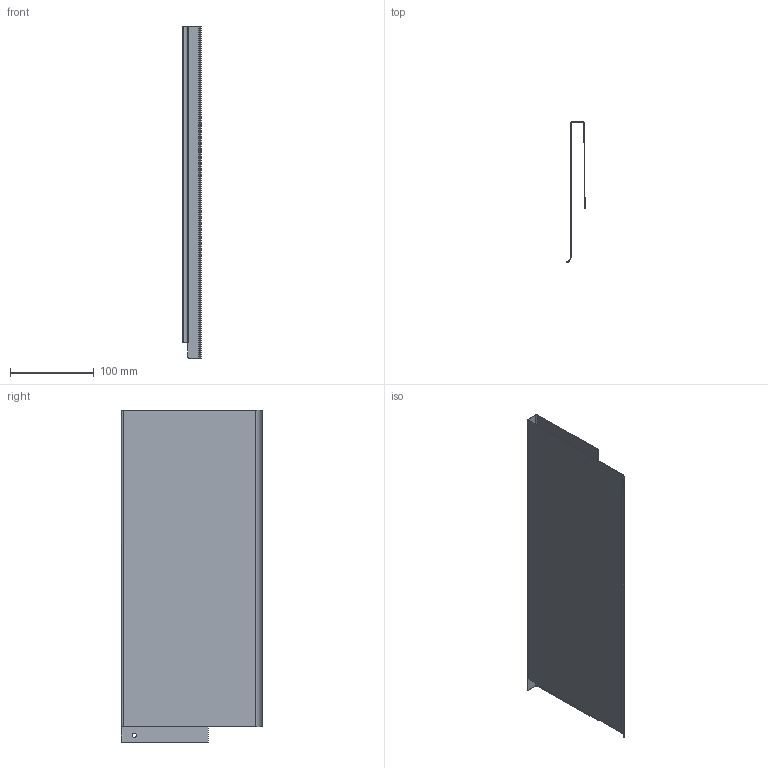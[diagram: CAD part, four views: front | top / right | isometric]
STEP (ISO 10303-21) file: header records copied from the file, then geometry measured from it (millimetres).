
FILE_DESCRIPTION (( 'STEP AP203' ), '1' );
FILE_NAME ('Nova Pro Duowing HRW H186 Deluxe rechts_NL400.step', '2014-02-14T12:19:04', ( 'test' ), ( '' ), 'SwSTEP 2.0', 'SolidWorks 2013', '' );
FILE_SCHEMA (( 'CONFIG_CONTROL_DESIGN' ));
Length unit declared in the file: millimetre
Products named in the file (1): Nova Pro Duowing HRW H186 Deluxe rechts_NL400
Bounding box: 21.82 x 169 x 397.5 mm (x, y, z)
Volume: 55702.1 mm3; surface area: 223502 mm2
Topology: 1 solids, 1 shells, 29 faces, 66 edges, 39 vertices
Faces by surface type: plane 20, cylinder 9
Entity records: 876 total; most frequent: CARTESIAN_POINT 147, DIRECTION 137, ORIENTED_EDGE 132, EDGE_CURVE 66, VECTOR 47, LINE 47, AXIS2_PLACEMENT_3D 45, VERTEX_POINT 39
